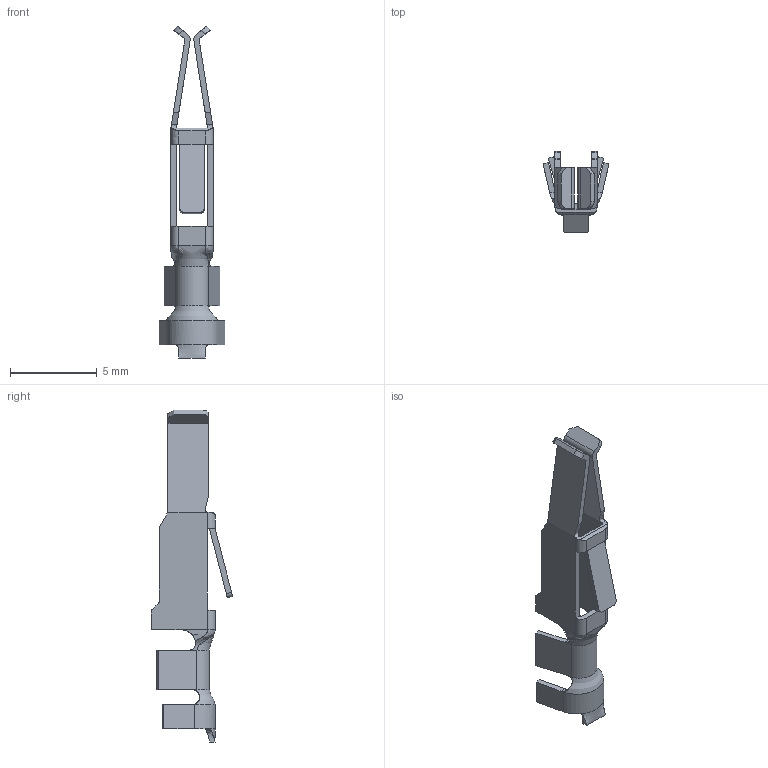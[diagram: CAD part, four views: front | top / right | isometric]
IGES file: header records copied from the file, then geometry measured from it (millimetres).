
Start section:  PTC IGES file: c-166461-3-m-3d.igs
Global section: file name: c-166461-3-m-3d.igs; native system: Creo Parametric by PTC Inc.; preprocessor: 2015200; author: workeradm; organization: Unknown; units: millimetre
Bounding box: 3.81 x 4.7 x 19.18 mm (x, y, z)
Surface area: 256 mm2 (no closed solid volume)
Topology: 0 solids, 0 shells, 135 faces, 714 edges, 714 vertices
Faces by surface type: bspline 99, revolution 36
